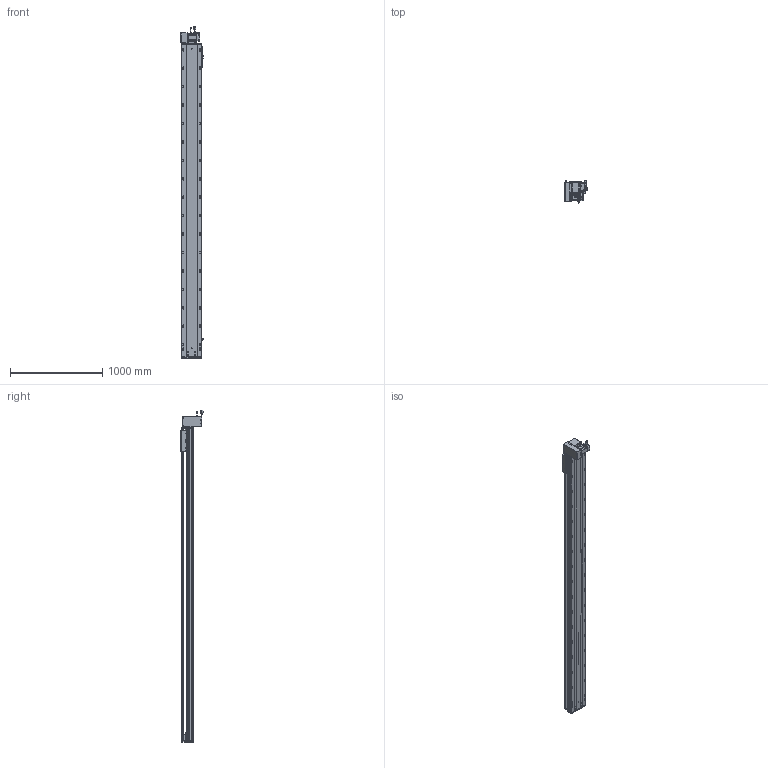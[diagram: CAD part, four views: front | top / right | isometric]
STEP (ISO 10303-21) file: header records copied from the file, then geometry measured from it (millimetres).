
FILE_DESCRIPTION (( 'STEP AP203' ), '1' );
FILE_NAME ('RY220-T-300-DL.SLDASM_3050.step', '2022-07-25T07:55:34', ( '' ), ( '' ), 'SwSTEP 2.0', 'SolidWorks 2016', '' );
FILE_SCHEMA (( 'CONFIG_CONTROL_DESIGN' ));
Length unit declared in the file: millimetre
Products named in the file (14): RY220翋肮祭謫裔啣; RY220-T-湍謫欶(鍼踢); 滅袉蝶18-15; RY220圉猾敕々湍臏賑輸; 覜茼ん672; RY220-同步轮副支撑座6304×2; RY220-俋离672覜茼んえ; RY220-T-蛌殏萇儂假蚾啣(750W); 110A-T-肮祭謫釱傷裔; RY220-T菁釱-300_3050; 怢湛750W_ECMA-CX0807ES; RY220-T-300-DL.SLDASM_3050; RY220翋肮祭謫釱; RY220-T-300-奻裔啣_3050
Assembly tree (18 placements, depth 2):
  RY220-T-300-DL.SLDASM_3050
    RY220-T菁釱-300_3050
    RY220翋肮祭謫釱
    覜茼ん672  x3
    RY220圉猾敕々湍臏賑輸
    RY220-T-300-奻裔啣_3050
    RY220-俋离672覜茼んえ
    滅袉蝶18-15  x3
    RY220翋肮祭謫裔啣  x2
    110A-T-肮祭謫釱傷裔
    怢湛750W_ECMA-CX0807ES
    RY220-T-湍謫欶(鍼踢)
    RY220-T-蛌殏萇儂假蚾啣(750W)
    RY220-同步轮副支撑座6304×2
Bounding box: 239.7 x 240.74 x 3603.27 mm (x, y, z)
Volume: 25523410.8 mm3; surface area: 7905398.2 mm2
Topology: 19 solids, 19 shells, 3050 faces, 8443 edges, 5282 vertices
Faces by surface type: cylinder 1514, plane 1069, cone 385, bspline 56, sphere 16, torus 10
Entity records: 101827 total; most frequent: CARTESIAN_POINT 28715, ORIENTED_EDGE 15098, DIRECTION 14608, EDGE_CURVE 7549, AXIS2_PLACEMENT_3D 5284, VERTEX_POINT 4906, VECTOR 4040, LINE 4040
